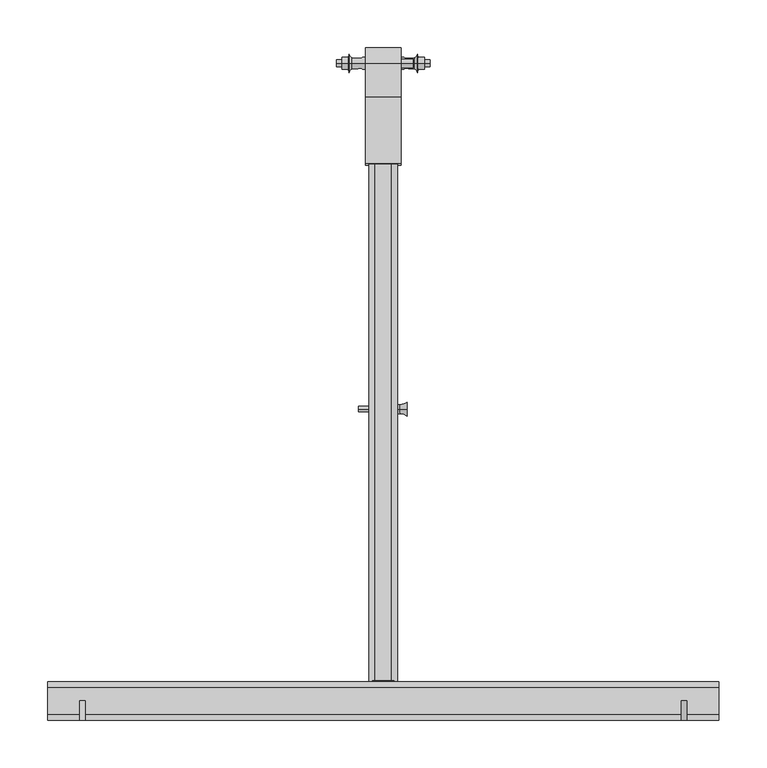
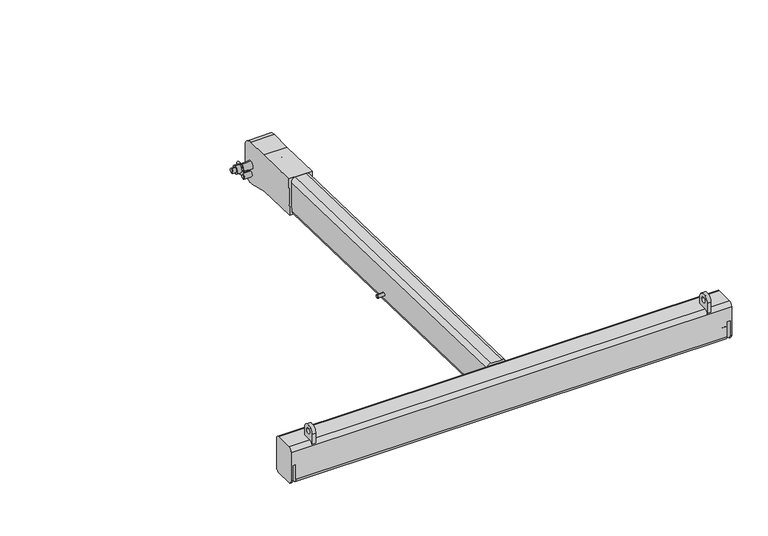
"""IFC4 building model written with IfcOpenShell, lengths in millimetres: proxy geometry, d&b A-Series AL V-SUB Adapter : AL V-SUB Adapter."""

from ifc_helpers import new_model, si_unit, point, frame, frame_2d, origin, place, context, project, spatial, polyline, circle_curve, ellipse_curve, trimmed, segment, composite_curve, outline, extrude, source, transform, mapped, element, save
from ifc_brep_helpers import plane_surface, cylinder_surface, revolved_surface, advanced_brep


def communication_devices_387f4dd8(model_context):
    return source(origin(), model_context, "Body", "SolidModel", [
        extrude(outline(composite_curve([segment(polyline([(634.4293831, -88.9528517), (564.4533704, -87.1204653), (566.0239873, -27.1410258), (636.0, -28.9734122), (671.0, -28.9734122)]), True, "CONTINUOUS"), segment(trimmed(circle_curve(frame_2d((671.0, -44.9734122)), 16.0), [point((671.0, -28.9734122))], [point((687.0, -44.9734122))], False, "CARTESIAN"), True, "CONTINUOUS"), segment(polyline([(687.0, -44.9734122), (687.0, -81.81)]), True, "CONTINUOUS"), segment(trimmed(circle_curve(frame_2d((671.0, -81.81)), 16.0), [point((687.0, -81.81))], [point((667.0270362, -97.308889))], False, "CARTESIAN"), True, "CONTINUOUS"), segment(polyline([(667.0270362, -97.308889), (634.4293831, -88.9528517)]), True, "CONTINUOUS")], self_intersect=False)), frame((-18.45, 0.0, 0.0), z_axis=(1.0, 0.0, 0.0), x_axis=(0.0, 1.0, 0.0)), (0.0, 0.0, 1.0), 36.9),
        extrude(outline(composite_curve([segment(polyline([(0.0, -12.6), (-47.4, -12.6)]), True, "CONTINUOUS"), segment(trimmed(circle_curve(frame_2d((-47.4, -6.3)), 6.3), [point((-47.4, -12.6))], [point((-53.7, -6.3))], False, "CARTESIAN"), True, "CONTINUOUS"), segment(polyline([(-53.7, -6.3), (-53.7, 11.1)]), True, "CONTINUOUS"), segment(trimmed(circle_curve(frame_2d((-47.4, 11.1)), 6.3), [point((-53.7, 11.1))], [point((-47.4, 17.4))], False, "CARTESIAN"), True, "CONTINUOUS"), segment(polyline([(-47.4, 17.4), (0.0, 17.4)]), True, "CONTINUOUS"), segment(trimmed(circle_curve(frame_2d((0.0, 11.1)), 6.3), [point((0.0, 17.4))], [point((6.3, 11.1))], False, "CARTESIAN"), True, "CONTINUOUS"), segment(polyline([(6.3, 11.1), (6.3, -6.3)]), True, "CONTINUOUS"), segment(trimmed(circle_curve(frame_2d((0.0, -6.3)), 6.3), [point((6.3, -6.3))], [point((0.0, -12.6))], False, "CARTESIAN"), True, "CONTINUOUS")], self_intersect=False)), frame((2.4, 565.8590725, -33.4388669), z_axis=(0.0, -0.9996573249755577, 0.02617694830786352), x_axis=(0.0, 0.02617694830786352, 0.9996573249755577)), (0.0, 0.0, 1.0), 539.4591339),
        extrude(outline(composite_curve([segment(trimmed(circle_curve(frame_2d((0.0, -57.0)), 3.0929539), [point((3.0929539, -57.0))], [point((-3.0929539, -57.0))], False, "CARTESIAN"), True, "CONTINUOUS"), segment(trimmed(circle_curve(frame_2d((0.0, -57.0)), 3.0929539), [point((-3.0929539, -57.0))], [point((3.0929539, -57.0))], False, "CARTESIAN"), True, "CONTINUOUS")], self_intersect=False)), frame((342.5, 0.0, 0.0), z_axis=(1.0, 0.0, 0.0), x_axis=(0.0, 1.0, 0.0)), (0.0, 0.0, 1.0), 5.0),
        extrude(outline(composite_curve([segment(trimmed(circle_curve(frame_2d((0.0, -57.0)), 3.0929539), [point((3.0929539, -57.0))], [point((-3.0929539, -57.0))], False, "CARTESIAN"), True, "CONTINUOUS"), segment(trimmed(circle_curve(frame_2d((0.0, -57.0)), 3.0929539), [point((-3.0929539, -57.0))], [point((3.0929539, -57.0))], False, "CARTESIAN"), True, "CONTINUOUS")], self_intersect=False)), frame((-347.5, 0.0, 0.0), z_axis=(1.0, 0.0, 0.0), x_axis=(0.0, 1.0, 0.0)), (0.0, 0.0, 1.0), 5.0),
        advanced_brep(
        [(350.0, -14.0, -19.3), (350.0, -14.0, -66.7), (350.0, -7.7, -73.0), (350.0, 19.7, -73.0), (350.0, 26.0, -66.7), (350.0, 26.0, -19.3), (350.0, 19.7, -13.0), (350.0, -7.7, -13.0), (-350.0, -14.0, -19.3), (-350.0, -7.7, -13.0), (-350.0, 19.7, -13.0), (-350.0, 26.0, -19.3), (-350.0, 26.0, -66.7), (-350.0, 19.7, -73.0), (-350.0, -7.7, -73.0), (-350.0, -14.0, -66.7), (-347.5, -14.0, -66.7), (-347.5, -14.0, -41.65), (-342.5, -14.0, -41.65), (-342.5, -14.0, -66.7), (342.5, -14.0, -66.7), (342.5, -14.0, -41.65), (347.5, -14.0, -41.65), (347.5, -14.0, -66.7), (347.5, -7.7, -73.0), (347.5, 19.7, -73.0), (-347.5, 19.7, -73.0), (-347.5, -7.7, -73.0), (342.5, -7.7, -73.0), (-342.5, -7.7, -73.0), (-342.5, 19.7, -73.0), (342.5, 19.7, -73.0), (347.5, 26.0, -66.7), (347.5, 26.0, -41.65), (342.5, 26.0, -41.65), (342.5, 26.0, -66.7), (-342.5, 26.0, -66.7), (-342.5, 26.0, -41.65), (-347.5, 26.0, -41.65), (-347.5, 26.0, -66.7)],
        [
            (0, 1),
            (1, 2, circle_curve(frame((350.0, -7.7, -66.7), z_axis=(1.0, 0.0, 0.0), x_axis=(0.0, 1.0, 0.0)), 6.3)),
            (2, 3),
            (3, 4, circle_curve(frame((350.0, 19.7, -66.7), z_axis=(1.0, 0.0, 0.0), x_axis=(0.0, 1.0, 0.0)), 6.3)),
            (4, 5),
            (5, 6, circle_curve(frame((350.0, 19.7, -19.3), z_axis=(1.0, 0.0, 0.0), x_axis=(0.0, 1.0, 0.0)), 6.3)),
            (6, 7),
            (7, 0, circle_curve(frame((350.0, -7.7, -19.3), z_axis=(1.0, 0.0, 0.0), x_axis=(0.0, 1.0, 0.0)), 6.3)),
            (8, 9, circle_curve(frame((-350.0, -7.7, -19.3), z_axis=(-1.0, 0.0, 0.0), x_axis=(0.0, 1.0, 0.0)), 6.3)),
            (9, 10),
            (10, 11, circle_curve(frame((-350.0, 19.7, -19.3), z_axis=(-1.0, 0.0, 0.0), x_axis=(0.0, 1.0, 0.0)), 6.3)),
            (11, 12),
            (12, 13, circle_curve(frame((-350.0, 19.7, -66.7), z_axis=(-1.0, 0.0, 0.0), x_axis=(0.0, 1.0, 0.0)), 6.3)),
            (13, 14),
            (14, 15, circle_curve(frame((-350.0, -7.7, -66.7), z_axis=(-1.0, 0.0, 0.0), x_axis=(0.0, 1.0, 0.0)), 6.3)),
            (15, 8),
            (0, 8),
            (15, 16),
            (16, 17),
            (17, 18),
            (18, 19),
            (19, 20),
            (20, 21),
            (21, 22),
            (22, 23),
            (23, 1),
            (2, 24),
            (24, 25),
            (25, 3),
            (13, 26),
            (26, 27),
            (27, 14),
            (28, 29),
            (29, 30),
            (30, 31),
            (31, 28),
            (4, 32),
            (32, 33),
            (33, 34),
            (34, 35),
            (35, 36),
            (36, 37),
            (37, 38),
            (38, 39),
            (39, 12),
            (11, 5),
            (6, 10),
            (9, 7),
            (38, 17),
            (16, 27, circle_curve(frame((-347.5, -7.7, -66.7), z_axis=(1.0, 0.0, 0.0), x_axis=(0.0, 1.0, 0.0)), 6.3)),
            (26, 39, circle_curve(frame((-347.5, 19.7, -66.7), z_axis=(1.0, 0.0, 0.0), x_axis=(0.0, 1.0, 0.0)), 6.3)),
            (18, 37),
            (36, 30, circle_curve(frame((-342.5, 19.7, -66.7), z_axis=(-1.0, 0.0, 0.0), x_axis=(0.0, 1.0, 0.0)), 6.3)),
            (29, 19, circle_curve(frame((-342.5, -7.7, -66.7), z_axis=(-1.0, 0.0, 0.0), x_axis=(0.0, 1.0, 0.0)), 6.3)),
            (33, 22),
            (21, 34),
            (20, 28, circle_curve(frame((342.5, -7.7, -66.7), z_axis=(1.0, 0.0, 0.0), x_axis=(0.0, 1.0, 0.0)), 6.3)),
            (31, 35, circle_curve(frame((342.5, 19.7, -66.7), z_axis=(1.0, 0.0, 0.0), x_axis=(0.0, 1.0, 0.0)), 6.3)),
            (32, 25, circle_curve(frame((347.5, 19.7, -66.7), z_axis=(-1.0, 0.0, 0.0), x_axis=(0.0, 1.0, 0.0)), 6.3)),
            (24, 23, circle_curve(frame((347.5, -7.7, -66.7), z_axis=(-1.0, 0.0, 0.0), x_axis=(0.0, 1.0, 0.0)), 6.3)),
        ],
        [
            plane_surface(frame((350.0, -14.0, -67.0), z_axis=(1.0, 0.0, 0.0), x_axis=(0.0, 0.0, -1.0))),
            plane_surface(frame((-350.0, -14.0, -67.0), z_axis=(-1.0, 0.0, 0.0), x_axis=(0.0, 0.0, 1.0))),
            plane_surface(frame((350.0, -14.0, -19.3), z_axis=(0.0, -1.0, 0.0), x_axis=(-1.0, 0.0, 0.0))),
            plane_surface(frame((350.0, -7.7, -73.0), z_axis=(0.0, 0.0, -1.0), x_axis=(-1.0, 0.0, 0.0))),
            plane_surface(frame((350.0, 26.0, -66.7), z_axis=(0.0, 1.0, 0.0), x_axis=(-1.0, 0.0, 0.0))),
            plane_surface(frame((350.0, 19.7, -13.0), z_axis=(0.0, 0.0, 1.0), x_axis=(-1.0, 0.0, 0.0))),
            plane_surface(frame((-347.5, -14.0, -41.65), z_axis=(1.0, 0.0, 0.0), x_axis=(0.0, 1.0, 0.0))),
            plane_surface(frame((-342.5, -14.0, -82.0), z_axis=(-1.0, 0.0, 0.0), x_axis=(0.0, 1.0, 0.0))),
            plane_surface(frame((-342.5, -14.0, -41.65), z_axis=(0.0, 0.0, -1.0), x_axis=(0.0, 1.0, 0.0))),
            plane_surface(frame((347.5, -14.0, -41.65), z_axis=(0.0, 0.0, -1.0), x_axis=(0.0, 1.0, 0.0))),
            plane_surface(frame((342.5, -14.0, -41.65), z_axis=(1.0, 0.0, 0.0), x_axis=(0.0, 1.0, 0.0))),
            plane_surface(frame((347.5, -14.0, -82.0), z_axis=(-1.0, 0.0, 0.0), x_axis=(0.0, 1.0, 0.0))),
            cylinder_surface(frame((-350.0, -7.7, -66.7), z_axis=(1.0, 0.0, 0.0), x_axis=(0.0, 1.0, 0.0)), 6.3),
            cylinder_surface(frame((-350.0, 19.7, -66.7), z_axis=(1.0, 0.0, 0.0), x_axis=(0.0, 1.0, 0.0)), 6.3),
            cylinder_surface(frame((-350.0, 19.7, -19.3), z_axis=(1.0, 0.0, 0.0), x_axis=(0.0, 1.0, 0.0)), 6.3),
            cylinder_surface(frame((-350.0, -7.7, -19.3), z_axis=(1.0, 0.0, 0.0), x_axis=(0.0, 1.0, 0.0)), 6.3),
        ],
        [
            (0, [[1, 2, 3, 4, 5, 6, 7, 8]]),
            (1, [[9, 10, 11, 12, 13, 14, 15, 16]]),
            (2, [[-1, 17, -16, 18, 19, 20, 21, 22, 23, 24, 25, 26]]),
            (3, [[-3, 27, 28, 29]]),
            (3, [[-14, 30, 31, 32]]),
            (3, [[33, 34, 35, 36]]),
            (4, [[-5, 37, 38, 39, 40, 41, 42, 43, 44, 45, -12, 46]]),
            (5, [[-7, 47, -10, 48]]),
            (6, [[49, -19, 50, -31, 51, -44]]),
            (7, [[52, -42, 53, -34, 54, -21]]),
            (8, [[-49, -43, -52, -20]]),
            (9, [[55, -24, 56, -39]]),
            (10, [[-56, -23, 57, -36, 58, -40]]),
            (11, [[-55, -38, 59, -28, 60, -25]]),
            (12, [[-2, -26, -60, -27]]),
            (12, [[-15, -32, -50, -18]]),
            (12, [[-33, -57, -22, -54]]),
            (13, [[-4, -29, -59, -37]]),
            (13, [[-13, -45, -51, -30]]),
            (13, [[-41, -58, -35, -53]]),
            (14, [[-6, -46, -11, -47]]),
            (15, [[-8, -48, -9, -17]]),
        ],
    ),
        extrude(outline(composite_curve([segment(polyline([(6.0, 0.0), (6.0, -13.0), (-7.7, -13.0)]), True, "CONTINUOUS"), segment(trimmed(circle_curve(frame_2d((-7.7, -19.3)), 6.3), [point((-7.7, -13.0))], [point((-14.0, -19.3))], True, "CARTESIAN"), True, "CONTINUOUS"), segment(polyline([(-14.0, -19.3), (-14.0, 0.0)]), True, "CONTINUOUS"), segment(trimmed(circle_curve(frame_2d((-4.0, 0.0)), 10.0), [point((-14.0, 0.0))], [point((6.0, 0.0))], False, "CARTESIAN"), True, "CONTINUOUS")], self_intersect=False), holes=[composite_curve([segment(trimmed(circle_curve(frame_2d((-4.0, 0.0)), 4.25), [point((0.25, 0.0))], [point((-8.25, 0.0))], True, "CARTESIAN"), True, "CONTINUOUS"), segment(trimmed(circle_curve(frame_2d((-4.0, 0.0)), 4.25), [point((-8.25, 0.0))], [point((0.25, 0.0))], True, "CARTESIAN"), True, "CONTINUOUS")], self_intersect=False)]), frame((311.0, 0.0, 0.0), z_axis=(1.0, 0.0, 0.0), x_axis=(0.0, 1.0, 0.0)), (0.0, 0.0, 1.0), 6.0),
        advanced_brep(
        [(-26.0278156, 310.3594594, -66.74), (-26.0278156, 310.3594594, -64.0402294), (-26.0278156, 310.3594594, -69.4397706), (-15.0, 310.3594594, -69.4397706), (-15.0, 310.3594594, -64.0402294), (-15.0, 310.3594594, -66.74)],
        [
            (0, 1),
            (1, 2, circle_curve(frame((-26.0278156, 310.3594594, -66.74), z_axis=(-1.0, 0.0, 0.0), x_axis=(0.0, 0.0, 1.0)), 2.6997706)),
            (2, 0),
            (2, 1, circle_curve(frame((-26.0278156, 310.3594594, -66.74), z_axis=(-1.0, 0.0, 0.0), x_axis=(0.0, 0.0, 1.0)), 2.6997706)),
            (3, 4, circle_curve(frame((-15.0, 310.3594594, -66.74), z_axis=(1.0, 0.0, 0.0), x_axis=(0.0, 0.0, 1.0)), 2.6997706)),
            (4, 5),
            (5, 3),
            (4, 3, circle_curve(frame((-15.0, 310.3594594, -66.74), z_axis=(1.0, 0.0, 0.0), x_axis=(0.0, 0.0, 1.0)), 2.6997706)),
            (1, 4),
            (3, 2),
        ],
        [
            plane_surface(frame((-26.0278156, 310.3594594, -66.74), z_axis=(-1.0, 0.0, 0.0), x_axis=(0.0, 0.0, 1.0))),
            plane_surface(frame((-15.0, 310.3594594, -66.74), z_axis=(1.0, 0.0, 0.0), x_axis=(0.0, 0.0, 1.0))),
            cylinder_surface(frame((10.0, 310.3594594, -66.74), z_axis=(-1.0, 0.0, 0.0), x_axis=(0.0, 0.0, 1.0)), 2.6997706),
        ],
        [
            (0, [[1, 2, 3]]),
            (0, [[-3, 4, -1]]),
            (1, [[5, 6, 7]]),
            (1, [[8, -7, -6]]),
            (2, [[-2, 9, -5, 10]]),
            (2, [[-4, -10, -8, -9]]),
        ],
    ),
        advanced_brep(
        [(15.0, 310.3594594, -66.74), (15.0, 310.3594594, -62.0313684), (15.0, 310.3594594, -71.4486316), (25.0, 310.3594594, -74.1173931), (25.0, 310.3594594, -59.3626069), (25.0, 310.3594594, -66.74), (17.502172, 310.3594594, -71.4486316), (17.502172, 310.3594594, -62.0313684)],
        [
            (0, 1),
            (1, 2, circle_curve(frame((15.0, 310.3594594, -66.74), z_axis=(-1.0, 0.0, 0.0), x_axis=(0.0, 0.0, 1.0)), 4.7086316)),
            (2, 0),
            (2, 1, circle_curve(frame((15.0, 310.3594594, -66.74), z_axis=(-1.0, 0.0, 0.0), x_axis=(0.0, 0.0, 1.0)), 4.7086316)),
            (3, 4, circle_curve(frame((25.0, 310.3594594, -66.74), z_axis=(1.0, 0.0, 0.0), x_axis=(0.0, 0.0, 1.0)), 7.3773931)),
            (4, 5),
            (5, 3),
            (4, 3, circle_curve(frame((25.0, 310.3594594, -66.74), z_axis=(1.0, 0.0, 0.0), x_axis=(0.0, 0.0, 1.0)), 7.3773931)),
            (6, 7, circle_curve(frame((17.502172, 310.3594594, -66.74), z_axis=(1.0, 0.0, 0.0), x_axis=(0.0, 0.0, 1.0)), 4.7086316)),
            (7, 4, circle_curve(frame((17.502172, 310.3594594, -50.1644946), z_axis=(0.0, -1.0, 0.0), x_axis=(-1.0, 0.0, 0.0)), 11.8668739)),
            (3, 6, circle_curve(frame((17.502172, 310.3594594, -83.3155054), z_axis=(0.0, -1.0, 0.0), x_axis=(-1.0, 0.0, 0.0)), 11.8668739)),
            (7, 6, circle_curve(frame((17.502172, 310.3594594, -66.74), z_axis=(1.0, 0.0, 0.0), x_axis=(0.0, 0.0, 1.0)), 4.7086316)),
            (1, 7),
            (6, 2),
        ],
        [
            plane_surface(frame((15.0, 310.3594594, -66.74), z_axis=(-1.0, 0.0, 0.0), x_axis=(0.0, 0.0, 1.0))),
            plane_surface(frame((25.0, 310.3594594, -66.74), z_axis=(1.0, 0.0, 0.0), x_axis=(0.0, 0.0, 1.0))),
            revolved_surface(trimmed(ellipse_curve(frame((17.502172, 310.3594594, -50.1644946), z_axis=(0.0, 1.0, 0.0), x_axis=(-1.0, 0.0, 0.0)), 11.8668739, 11.8668739), [point((25.0, 310.3594594, -59.3626069))], [point((17.502172, 310.3594594, -62.0313684))], True, "CARTESIAN"), (10.0, 310.3594594, -66.74), (-1.0, 0.0, 0.0)),
            cylinder_surface(frame((10.0, 310.3594594, -66.74), z_axis=(-1.0, 0.0, 0.0), x_axis=(0.0, 0.0, 1.0)), 4.7086316),
        ],
        [
            (0, [[1, 2, 3]]),
            (0, [[-3, 4, -1]]),
            (1, [[5, 6, 7]]),
            (1, [[8, -7, -6]]),
            (2, [[9, 10, -5, 11]]),
            (2, [[12, -11, -8, -10]]),
            (3, [[-2, 13, -9, 14]]),
            (3, [[-4, -14, -12, -13]]),
        ],
    ),
        advanced_brep(
        [(-48.95, 671.0, -66.74), (-48.95, 671.0, -62.9849086), (-48.95, 671.0, -70.4950914), (-18.45, 671.0, -73.1752569), (-18.45, 671.0, -60.3047431), (-18.45, 671.0, -66.74), (-32.7694613, 671.0, -72.4965455), (-32.7694613, 671.0, -60.9834545), (-35.8094561, 671.0, -76.4662346), (-35.8094561, 671.0, -57.0137654), (-36.2419328, 671.0, -73.1752569), (-36.2419328, 671.0, -60.3047431), (-42.88, 671.0, -73.1752569), (-42.88, 671.0, -60.3047431), (-42.88, 671.0, -70.4950914), (-42.88, 671.0, -62.9849086)],
        [
            (0, 1),
            (1, 2, circle_curve(frame((-48.95, 671.0, -66.74), z_axis=(-1.0, 0.0, 0.0), x_axis=(0.0, 0.0, 1.0)), 3.7550914)),
            (2, 0),
            (2, 1, circle_curve(frame((-48.95, 671.0, -66.74), z_axis=(-1.0, 0.0, 0.0), x_axis=(0.0, 0.0, 1.0)), 3.7550914)),
            (3, 4, circle_curve(frame((-18.45, 671.0, -66.74), z_axis=(1.0, 0.0, 0.0), x_axis=(0.0, 0.0, 1.0)), 6.4352569)),
            (4, 5),
            (5, 3),
            (4, 3, circle_curve(frame((-18.45, 671.0, -66.74), z_axis=(1.0, 0.0, 0.0), x_axis=(0.0, 0.0, 1.0)), 6.4352569)),
            (6, 7, circle_curve(frame((-32.7694613, 671.0, -66.74), z_axis=(1.0, 0.0, 0.0), x_axis=(0.0, 0.0, 1.0)), 5.7565455)),
            (7, 4, circle_curve(frame((-27.3794187, 671.0, -23.307199), z_axis=(0.0, -1.0, 0.0), x_axis=(1.0, 0.0, 0.0)), 38.059858)),
            (3, 6, circle_curve(frame((-27.3794187, 671.0, -110.172801), z_axis=(0.0, -1.0, 0.0), x_axis=(1.0, 0.0, 0.0)), 38.059858)),
            (7, 6, circle_curve(frame((-32.7694613, 671.0, -66.74), z_axis=(1.0, 0.0, 0.0), x_axis=(0.0, 0.0, 1.0)), 5.7565455)),
            (8, 9, circle_curve(frame((-35.8094561, 671.0, -66.74), z_axis=(1.0, 0.0, 0.0), x_axis=(0.0, 0.0, 1.0)), 9.7262346)),
            (9, 7, circle_curve(frame((-29.6143301, 671.0, -55.4183884), z_axis=(0.0, -1.0, 0.0), x_axis=(1.0, 0.0, 0.0)), 6.3972505)),
            (6, 8, circle_curve(frame((-29.6143301, 671.0, -78.0616116), z_axis=(0.0, -1.0, 0.0), x_axis=(1.0, 0.0, 0.0)), 6.3972505)),
            (9, 8, circle_curve(frame((-35.8094561, 671.0, -66.74), z_axis=(1.0, 0.0, 0.0), x_axis=(0.0, 0.0, 1.0)), 9.7262346)),
            (10, 11, circle_curve(frame((-36.2419328, 671.0, -66.74), z_axis=(1.0, 0.0, 0.0), x_axis=(0.0, 0.0, 1.0)), 6.4352569)),
            (11, 9),
            (8, 10),
            (11, 10, circle_curve(frame((-36.2419328, 671.0, -66.74), z_axis=(1.0, 0.0, 0.0), x_axis=(0.0, 0.0, 1.0)), 6.4352569)),
            (12, 13, circle_curve(frame((-42.88, 671.0, -66.74), z_axis=(1.0, 0.0, 0.0), x_axis=(0.0, 0.0, 1.0)), 6.4352569)),
            (13, 11),
            (10, 12),
            (13, 12, circle_curve(frame((-42.88, 671.0, -66.74), z_axis=(1.0, 0.0, 0.0), x_axis=(0.0, 0.0, 1.0)), 6.4352569)),
            (14, 15, circle_curve(frame((-42.88, 671.0, -66.74), z_axis=(1.0, 0.0, 0.0), x_axis=(0.0, 0.0, 1.0)), 3.7550914)),
            (15, 13),
            (12, 14),
            (15, 14, circle_curve(frame((-42.88, 671.0, -66.74), z_axis=(1.0, 0.0, 0.0), x_axis=(0.0, 0.0, 1.0)), 3.7550914)),
            (1, 15),
            (14, 2),
        ],
        [
            plane_surface(frame((-48.95, 671.0, -66.74), z_axis=(-1.0, 0.0, 0.0), x_axis=(0.0, 0.0, 1.0))),
            plane_surface(frame((-18.45, 671.0, -66.74), z_axis=(1.0, 0.0, 0.0), x_axis=(0.0, 0.0, 1.0))),
            revolved_surface(trimmed(ellipse_curve(frame((-27.3794187, 671.0, -23.307199), z_axis=(0.0, 1.0, 0.0), x_axis=(1.0, 0.0, 0.0)), 38.059858, 38.059858), [point((-18.45, 671.0, -60.3047431))], [point((-32.7694613, 671.0, -60.9834545))], True, "CARTESIAN"), (-45.8222813, 671.0, -66.74), (-1.0, 0.0, 0.0)),
            revolved_surface(trimmed(ellipse_curve(frame((-29.6143301, 671.0, -55.4183884), z_axis=(0.0, 1.0, 0.0), x_axis=(1.0, 0.0, 0.0)), 6.3972505, 6.3972505), [point((-32.7694613, 671.0, -60.9834545))], [point((-35.8094561, 671.0, -57.0137654))], True, "CARTESIAN"), (-45.8222813, 671.0, -66.74), (-1.0, 0.0, 0.0)),
            revolved_surface(polyline([(-35.8094561, 671.0, -57.0137654), (-36.2419328, 671.0, -60.3047431)]), (-45.8222813, 671.0, -66.74), (-1.0, 0.0, 0.0)),
            cylinder_surface(frame((-45.8222813, 671.0, -66.74), z_axis=(-1.0, 0.0, 0.0), x_axis=(0.0, 0.0, 1.0)), 6.4352569),
            plane_surface(frame((-42.88, 671.0, -66.74), z_axis=(-1.0, 0.0, 0.0), x_axis=(0.0, 0.0, 1.0))),
            cylinder_surface(frame((-45.8222813, 671.0, -66.74), z_axis=(-1.0, 0.0, 0.0), x_axis=(0.0, 0.0, 1.0)), 3.7550914),
        ],
        [
            (0, [[1, 2, 3]]),
            (0, [[-3, 4, -1]]),
            (1, [[5, 6, 7]]),
            (1, [[8, -7, -6]]),
            (2, [[9, 10, -5, 11]]),
            (2, [[12, -11, -8, -10]]),
            (3, [[13, 14, -9, 15]]),
            (3, [[16, -15, -12, -14]]),
            (4, [[17, 18, -13, 19]]),
            (4, [[20, -19, -16, -18]]),
            (5, [[21, 22, -17, 23]]),
            (5, [[24, -23, -20, -22]]),
            (6, [[25, 26, -21, 27]]),
            (6, [[28, -27, -24, -26]]),
            (7, [[-2, 29, -25, 30]]),
            (7, [[-4, -30, -28, -29]]),
        ],
    ),
        advanced_brep(
        [(18.45, 671.0, -66.74), (18.45, 671.0, -62.28386), (18.45, 671.0, -71.19614), (30.8222813, 671.0, -71.19614), (30.8222813, 671.0, -62.28386), (30.8222813, 671.0, -66.74)],
        [
            (0, 1),
            (1, 2, circle_curve(frame((18.45, 671.0, -66.74), z_axis=(-1.0, 0.0, 0.0), x_axis=(0.0, 0.0, 1.0)), 4.45614)),
            (2, 0),
            (2, 1, circle_curve(frame((18.45, 671.0, -66.74), z_axis=(-1.0, 0.0, 0.0), x_axis=(0.0, 0.0, 1.0)), 4.45614)),
            (3, 4, circle_curve(frame((30.8222813, 671.0, -66.74), z_axis=(1.0, 0.0, 0.0), x_axis=(0.0, 0.0, 1.0)), 4.45614)),
            (4, 5),
            (5, 3),
            (4, 3, circle_curve(frame((30.8222813, 671.0, -66.74), z_axis=(1.0, 0.0, 0.0), x_axis=(0.0, 0.0, 1.0)), 4.45614)),
            (1, 4),
            (3, 2),
        ],
        [
            plane_surface(frame((18.45, 671.0, -66.74), z_axis=(-1.0, 0.0, 0.0), x_axis=(0.0, 0.0, 1.0))),
            plane_surface(frame((30.8222813, 671.0, -66.74), z_axis=(1.0, 0.0, 0.0), x_axis=(0.0, 0.0, 1.0))),
            cylinder_surface(frame((-45.8222813, 671.0, -66.74), z_axis=(-1.0, 0.0, 0.0), x_axis=(0.0, 0.0, 1.0)), 4.45614),
        ],
        [
            (0, [[1, 2, 3]]),
            (0, [[-3, 4, -1]]),
            (1, [[5, 6, 7]]),
            (1, [[8, -7, -6]]),
            (2, [[-2, 9, -5, 10]]),
            (2, [[-4, -10, -8, -9]]),
        ],
    ),
        advanced_brep(
        [(42.88, 671.0, -85.5650914), (42.88, 671.0, -78.0549086), (48.95, 671.0, -78.0549086), (48.95, 671.0, -85.5650914), (42.88, 671.0, -88.2452569), (42.88, 671.0, -75.3747431), (36.2419328, 671.0, -88.2452569), (36.2419328, 671.0, -75.3747431), (35.8094561, 671.0, -91.5362346), (35.8094561, 671.0, -72.0837654), (32.7694613, 671.0, -87.5665455), (32.7694613, 671.0, -76.0534545), (18.45, 671.0, -88.2452569), (18.45, 671.0, -75.3747431), (18.45, 671.0, -81.81), (48.95, 671.0, -81.81)],
        [
            (0, 1, circle_curve(frame((42.88, 671.0, -81.81), z_axis=(1.0, 0.0, 0.0), x_axis=(0.0, 0.0, 1.0)), 3.7550914)),
            (1, 2),
            (2, 3, circle_curve(frame((48.95, 671.0, -81.81), z_axis=(-1.0, 0.0, 0.0), x_axis=(0.0, 0.0, 1.0)), 3.7550914)),
            (3, 0),
            (1, 0, circle_curve(frame((42.88, 671.0, -81.81), z_axis=(1.0, 0.0, 0.0), x_axis=(0.0, 0.0, 1.0)), 3.7550914)),
            (3, 2, circle_curve(frame((48.95, 671.0, -81.81), z_axis=(-1.0, 0.0, 0.0), x_axis=(0.0, 0.0, 1.0)), 3.7550914)),
            (4, 5, circle_curve(frame((42.88, 671.0, -81.81), z_axis=(1.0, 0.0, 0.0), x_axis=(0.0, 0.0, 1.0)), 6.4352569)),
            (5, 1),
            (0, 4),
            (5, 4, circle_curve(frame((42.88, 671.0, -81.81), z_axis=(1.0, 0.0, 0.0), x_axis=(0.0, 0.0, 1.0)), 6.4352569)),
            (6, 7, circle_curve(frame((36.2419328, 671.0, -81.81), z_axis=(1.0, 0.0, 0.0), x_axis=(0.0, 0.0, 1.0)), 6.4352569)),
            (7, 5),
            (4, 6),
            (7, 6, circle_curve(frame((36.2419328, 671.0, -81.81), z_axis=(1.0, 0.0, 0.0), x_axis=(0.0, 0.0, 1.0)), 6.4352569)),
            (8, 9, circle_curve(frame((35.8094561, 671.0, -81.81), z_axis=(1.0, 0.0, 0.0), x_axis=(0.0, 0.0, 1.0)), 9.7262346)),
            (9, 7),
            (6, 8),
            (9, 8, circle_curve(frame((35.8094561, 671.0, -81.81), z_axis=(1.0, 0.0, 0.0), x_axis=(0.0, 0.0, 1.0)), 9.7262346)),
            (10, 11, circle_curve(frame((32.7694613, 671.0, -81.81), z_axis=(1.0, 0.0, 0.0), x_axis=(0.0, 0.0, 1.0)), 5.7565455)),
            (11, 9, circle_curve(frame((29.6143301, 671.0, -70.4883884), z_axis=(0.0, -1.0, 0.0), x_axis=(-1.0, 0.0, 0.0)), 6.3972505)),
            (8, 10, circle_curve(frame((29.6143301, 671.0, -93.1316116), z_axis=(0.0, -1.0, 0.0), x_axis=(-1.0, 0.0, 0.0)), 6.3972505)),
            (11, 10, circle_curve(frame((32.7694613, 671.0, -81.81), z_axis=(1.0, 0.0, 0.0), x_axis=(0.0, 0.0, 1.0)), 5.7565455)),
            (12, 13, circle_curve(frame((18.45, 671.0, -81.81), z_axis=(1.0, 0.0, 0.0), x_axis=(0.0, 0.0, 1.0)), 6.4352569)),
            (13, 11, circle_curve(frame((27.3794187, 671.0, -38.377199), z_axis=(0.0, -1.0, 0.0), x_axis=(-1.0, 0.0, 0.0)), 38.059858)),
            (10, 12, circle_curve(frame((27.3794187, 671.0, -125.242801), z_axis=(0.0, -1.0, 0.0), x_axis=(-1.0, 0.0, 0.0)), 38.059858)),
            (13, 12, circle_curve(frame((18.45, 671.0, -81.81), z_axis=(1.0, 0.0, 0.0), x_axis=(0.0, 0.0, 1.0)), 6.4352569)),
            (14, 13),
            (12, 14),
            (2, 15),
            (15, 3),
        ],
        [
            cylinder_surface(frame((-45.8222813, 671.0, -81.81), z_axis=(-1.0, 0.0, 0.0), x_axis=(0.0, 0.0, 1.0)), 3.7550914),
            plane_surface(frame((42.88, 671.0, -81.81), z_axis=(1.0, 0.0, 0.0), x_axis=(0.0, 0.0, 1.0))),
            cylinder_surface(frame((-45.8222813, 671.0, -81.81), z_axis=(-1.0, 0.0, 0.0), x_axis=(0.0, 0.0, 1.0)), 6.4352569),
            revolved_surface(polyline([(36.2419328, 671.0, -75.3747431), (35.8094561, 671.0, -72.0837654)]), (-45.8222813, 671.0, -81.81), (-1.0, 0.0, 0.0)),
            revolved_surface(trimmed(ellipse_curve(frame((29.6143301, 671.0, -70.4883884), z_axis=(0.0, 1.0, 0.0), x_axis=(-1.0, 0.0, 0.0)), 6.3972505, 6.3972505), [point((35.8094561, 671.0, -72.0837654))], [point((32.7694613, 671.0, -76.0534545))], True, "CARTESIAN"), (-45.8222813, 671.0, -81.81), (-1.0, 0.0, 0.0)),
            revolved_surface(trimmed(ellipse_curve(frame((27.3794187, 671.0, -38.377199), z_axis=(0.0, 1.0, 0.0), x_axis=(-1.0, 0.0, 0.0)), 38.059858, 38.059858), [point((32.7694613, 671.0, -76.0534545))], [point((18.45, 671.0, -75.3747431))], True, "CARTESIAN"), (-45.8222813, 671.0, -81.81), (-1.0, 0.0, 0.0)),
            plane_surface(frame((18.45, 671.0, -81.81), z_axis=(-1.0, 0.0, 0.0), x_axis=(0.0, 0.0, 1.0))),
            plane_surface(frame((48.95, 671.0, -81.81), z_axis=(1.0, 0.0, 0.0), x_axis=(0.0, 0.0, 1.0))),
        ],
        [
            (0, [[1, 2, 3, 4]]),
            (0, [[5, -4, 6, -2]]),
            (1, [[7, 8, -1, 9]]),
            (1, [[10, -9, -5, -8]]),
            (2, [[11, 12, -7, 13]]),
            (2, [[14, -13, -10, -12]]),
            (3, [[15, 16, -11, 17]]),
            (3, [[18, -17, -14, -16]]),
            (4, [[19, 20, -15, 21]]),
            (4, [[22, -21, -18, -20]]),
            (5, [[23, 24, -19, 25]]),
            (5, [[26, -25, -22, -24]]),
            (6, [[27, -23, 28]]),
            (6, [[-28, -26, -27]]),
            (7, [[-3, 29, 30]]),
            (7, [[-6, -30, -29]]),
        ],
    ),
        advanced_brep(
        [(-30.8222813, 671.0, -86.26614), (-30.8222813, 671.0, -77.35386), (-18.45, 671.0, -77.35386), (-18.45, 671.0, -86.26614), (-30.8222813, 671.0, -81.81), (-18.45, 671.0, -81.81)],
        [
            (0, 1, circle_curve(frame((-30.8222813, 671.0, -81.81), z_axis=(1.0, 0.0, 0.0), x_axis=(0.0, 0.0, 1.0)), 4.45614)),
            (1, 2),
            (2, 3, circle_curve(frame((-18.45, 671.0, -81.81), z_axis=(-1.0, 0.0, 0.0), x_axis=(0.0, 0.0, 1.0)), 4.45614)),
            (3, 0),
            (1, 0, circle_curve(frame((-30.8222813, 671.0, -81.81), z_axis=(1.0, 0.0, 0.0), x_axis=(0.0, 0.0, 1.0)), 4.45614)),
            (3, 2, circle_curve(frame((-18.45, 671.0, -81.81), z_axis=(-1.0, 0.0, 0.0), x_axis=(0.0, 0.0, 1.0)), 4.45614)),
            (4, 1),
            (0, 4),
            (2, 5),
            (5, 3),
        ],
        [
            cylinder_surface(frame((-45.8222813, 671.0, -81.81), z_axis=(-1.0, 0.0, 0.0), x_axis=(0.0, 0.0, 1.0)), 4.45614),
            plane_surface(frame((-30.8222813, 671.0, -81.81), z_axis=(-1.0, 0.0, 0.0), x_axis=(0.0, 0.0, 1.0))),
            plane_surface(frame((-18.45, 671.0, -81.81), z_axis=(1.0, 0.0, 0.0), x_axis=(0.0, 0.0, 1.0))),
        ],
        [
            (0, [[1, 2, 3, 4]]),
            (0, [[5, -4, 6, -2]]),
            (1, [[7, -1, 8]]),
            (1, [[-8, -5, -7]]),
            (2, [[-3, 9, 10]]),
            (2, [[-6, -10, -9]]),
        ],
    ),
        extrude(outline(composite_curve([segment(polyline([(6.0, 0.0), (6.0, -13.0), (-7.7, -13.0)]), True, "CONTINUOUS"), segment(trimmed(circle_curve(frame_2d((-7.7, -19.3)), 6.3), [point((-7.7, -13.0))], [point((-14.0, -19.3))], True, "CARTESIAN"), True, "CONTINUOUS"), segment(polyline([(-14.0, -19.3), (-14.0, 0.0)]), True, "CONTINUOUS"), segment(trimmed(circle_curve(frame_2d((-4.0, 0.0)), 10.0), [point((-14.0, 0.0))], [point((6.0, 0.0))], False, "CARTESIAN"), True, "CONTINUOUS")], self_intersect=False), holes=[composite_curve([segment(trimmed(circle_curve(frame_2d((-4.0, 0.0)), 4.25), [point((0.25, 0.0))], [point((-8.25, 0.0))], True, "CARTESIAN"), True, "CONTINUOUS"), segment(trimmed(circle_curve(frame_2d((-4.0, 0.0)), 4.25), [point((-8.25, 0.0))], [point((0.25, 0.0))], True, "CARTESIAN"), True, "CONTINUOUS")], self_intersect=False)]), frame((-317.0, 0.0, 0.0), z_axis=(1.0, 0.0, 0.0), x_axis=(0.0, 1.0, 0.0)), (0.0, 0.0, 1.0), 6.0),
    ])


if __name__ == "__main__":
    model = new_model("IFC4")
    model_context = context("Model", 3, world=origin())
    ifc_project = project(units=[si_unit("LENGTHUNIT", "METRE", prefix="MILLI")], contexts=[model_context])
    site = spatial("IfcSite", under=ifc_project)
    building = spatial("IfcBuilding", under=site)
    placement = place(None, origin())
    communication_devices_shape = communication_devices_387f4dd8(model_context)
    element("IfcBuildingElementProxy", 1, Name="d&b A-Series AL V-SUB Adapter : AL V-SUB Adapter", ObjectType="d&b A-Series AL V-SUB Adapter : AL V-SUB Adapter", at=placement, inside=building, context=model_context, shape_type="MappedRepresentation", body=[
        mapped(communication_devices_shape, transform((0.0, 0.0, 0.0), x_axis=(1.0, 0.0, 0.0), y_axis=(0.0, 1.0, 0.0), z_axis=(0.0, 0.0, 1.0))),
    ])
    save(model, "model.ifc")
